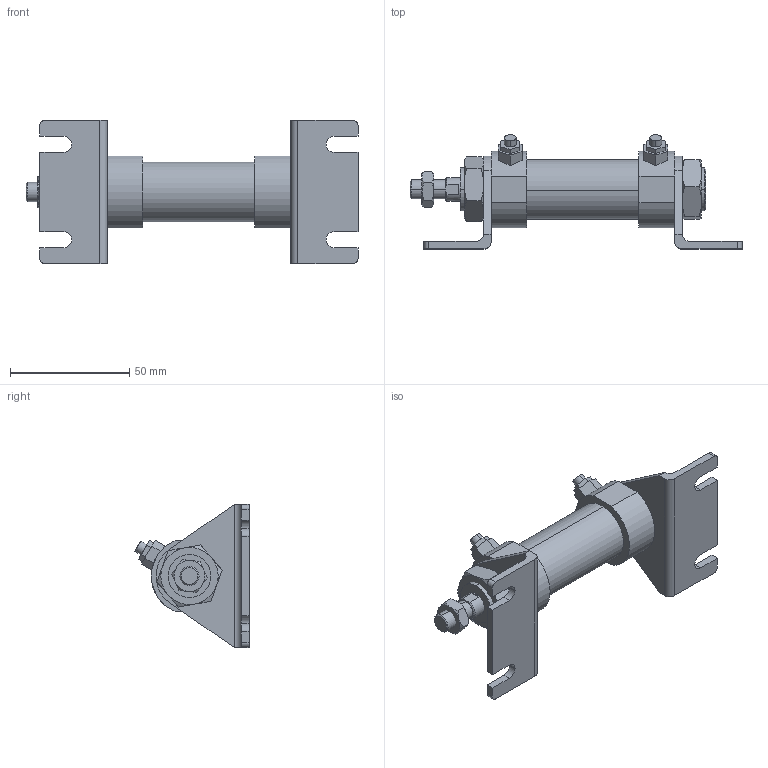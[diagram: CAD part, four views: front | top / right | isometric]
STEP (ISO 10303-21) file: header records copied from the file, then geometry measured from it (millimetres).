
FILE_DESCRIPTION (( 'STEP AP203' ), '1' );
FILE_NAME ('JG2-20-15-L.STEP', '2016-04-19T00:33:54', ( '' ), ( '' ), 'SwSTEP 2.0', 'SolidWorks 2014', '' );
FILE_SCHEMA (( 'CONFIG_CONTROL_DESIGN' ));
Length unit declared in the file: millimetre
Products named in the file (7): J#2-20-L; M8x1.25-5mm; M18x1.5-8mm; JG2-20B; 20-15; JG2-20-15-L; JG2-20A
Assembly tree (8 placements, depth 2):
  JG2-20-15-L
    JG2-20B
    20-15
    JG2-20A
    M8x1.25-5mm
    M18x1.5-8mm  x2
    J#2-20-L  x2
Bounding box: 139.2 x 47.9 x 60 mm (x, y, z)
Volume: 75873 mm3; surface area: 30001.9 mm2
Topology: 8 solids, 8 shells, 212 faces, 496 edges, 312 vertices
Faces by surface type: plane 106, cylinder 56, torus 36, cone 14
Entity records: 5792 total; most frequent: CARTESIAN_POINT 1333, DIRECTION 781, ORIENTED_EDGE 742, EDGE_CURVE 371, AXIS2_PLACEMENT_3D 300, VERTEX_POINT 236, EDGE_LOOP 185, LINE 181
